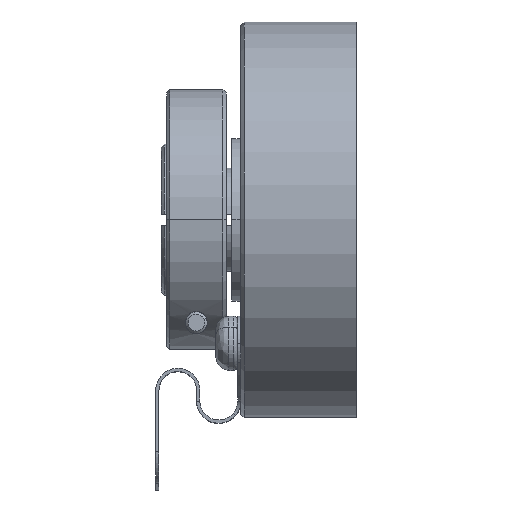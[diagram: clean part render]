
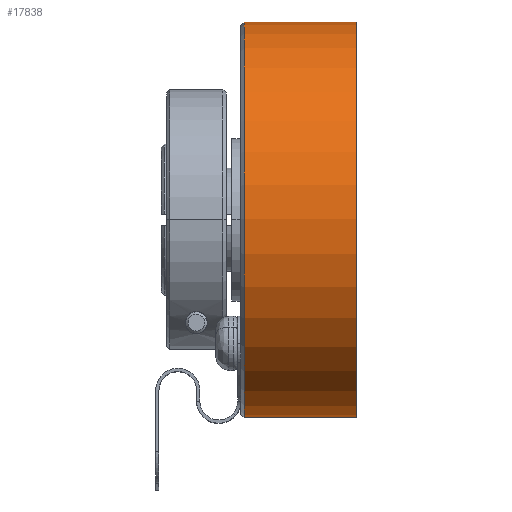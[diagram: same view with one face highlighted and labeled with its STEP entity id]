
A CAD part, top view. The second image highlights one B-rep face of the part: STEP entity #17838.
In plain terms, the highlighted cylindrical face has radius 18.25 mm (diameter 36.5 mm), a partial arc.
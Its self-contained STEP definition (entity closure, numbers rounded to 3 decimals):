
#636 = VECTOR ( 'NONE', #5016, 1000. ) ;
#812 = VERTEX_POINT ( 'NONE', #7895 ) ;
#2568 = CYLINDRICAL_SURFACE ( 'NONE', #4727, 18.25 ) ;
#3484 = CARTESIAN_POINT ( 'NONE',  ( -1000., 0., 0. ) ) ;
#4416 = DIRECTION ( 'NONE',  ( 0., 1., 0. ) ) ;
#4579 = DIRECTION ( 'NONE',  ( -1., 0., 0. ) ) ;
#4727 = AXIS2_PLACEMENT_3D ( 'NONE', #3484, #17015, #5199 ) ;
#4732 = EDGE_CURVE ( 'NONE', #19403, #11544, #13623, .T. ) ;
#5016 = DIRECTION ( 'NONE',  ( -1., 0., 0. ) ) ;
#5199 = DIRECTION ( 'NONE',  ( 0., 1., 0. ) ) ;
#5238 = CARTESIAN_POINT ( 'NONE',  ( -1000., 18.25, 0. ) ) ;
#6139 = CARTESIAN_POINT ( 'NONE',  ( -11.65, 0., 0. ) ) ;
#6775 = CARTESIAN_POINT ( 'NONE',  ( -1.3, 0., 0. ) ) ;
#6815 = EDGE_CURVE ( 'NONE', #12374, #11544, #12059, .T. ) ;
#7885 = AXIS2_PLACEMENT_3D ( 'NONE', #6139, #11216, #4416 ) ;
#7895 = CARTESIAN_POINT ( 'NONE',  ( -1.3, 18.25, 0. ) ) ;
#8452 = DIRECTION ( 'NONE',  ( 0., 1., 0. ) ) ;
#8609 = LINE ( 'NONE', #5238, #636 ) ;
#9327 = CARTESIAN_POINT ( 'NONE',  ( -11.65, 18.25, 0. ) ) ;
#9376 = CIRCLE ( 'NONE', #21829, 18.25 ) ;
#9965 = EDGE_CURVE ( 'NONE', #812, #12374, #8609, .T. ) ;
#11216 = DIRECTION ( 'NONE',  ( 1., 0., 0. ) ) ;
#11544 = VERTEX_POINT ( 'NONE', #17477 ) ;
#11771 = EDGE_LOOP ( 'NONE', ( #21449, #12467, #21995, #21654 ) ) ;
#12059 = CIRCLE ( 'NONE', #7885, 18.25 ) ;
#12374 = VERTEX_POINT ( 'NONE', #9327 ) ;
#12467 = ORIENTED_EDGE ( 'NONE', *, *, #12587, .T. ) ;
#12587 = EDGE_CURVE ( 'NONE', #19403, #812, #9376, .T. ) ;
#13623 = LINE ( 'NONE', #19816, #17066 ) ;
#16814 = CARTESIAN_POINT ( 'NONE',  ( -1.3, -18.25, 0. ) ) ;
#17015 = DIRECTION ( 'NONE',  ( -1., 0., 0. ) ) ;
#17066 = VECTOR ( 'NONE', #4579, 1000. ) ;
#17477 = CARTESIAN_POINT ( 'NONE',  ( -11.65, -18.25, 0. ) ) ;
#17838 = ADVANCED_FACE ( 'NONE', ( #20194 ), #2568, .T. ) ;
#19403 = VERTEX_POINT ( 'NONE', #16814 ) ;
#19816 = CARTESIAN_POINT ( 'NONE',  ( -1000., -18.25, 0. ) ) ;
#20194 = FACE_OUTER_BOUND ( 'NONE', #11771, .T. ) ;
#20359 = DIRECTION ( 'NONE',  ( -1., 0., 0. ) ) ;
#21449 = ORIENTED_EDGE ( 'NONE', *, *, #4732, .F. ) ;
#21654 = ORIENTED_EDGE ( 'NONE', *, *, #6815, .T. ) ;
#21829 = AXIS2_PLACEMENT_3D ( 'NONE', #6775, #20359, #8452 ) ;
#21995 = ORIENTED_EDGE ( 'NONE', *, *, #9965, .T. ) ;
